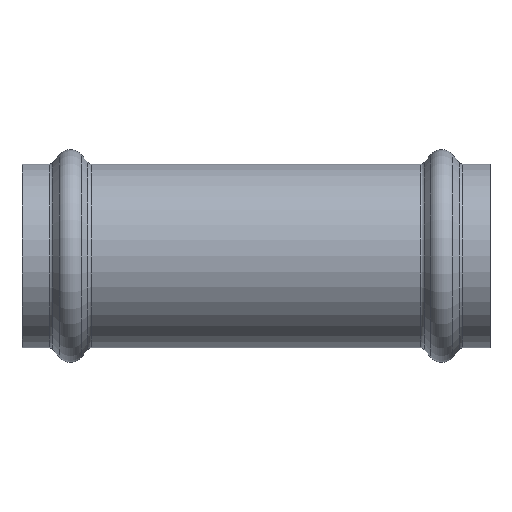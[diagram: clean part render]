
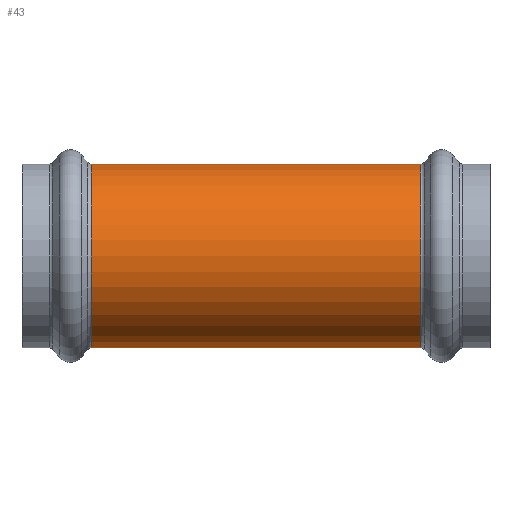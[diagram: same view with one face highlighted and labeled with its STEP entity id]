
A CAD part, front view. The second image highlights one B-rep face of the part: STEP entity #43.
In plain terms, the highlighted cylindrical face has radius 19.05 mm (diameter 38.1 mm), a partial arc.
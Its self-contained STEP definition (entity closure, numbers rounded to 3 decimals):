
#43 = ADVANCED_FACE ( 'NONE', ( #1104 ), #3034, .T. ) ;
#663 = DIRECTION ( 'NONE',  ( -1., 0., 0. ) ) ;
#766 = ORIENTED_EDGE ( 'NONE', *, *, #1442, .F. ) ;
#822 = DIRECTION ( 'NONE',  ( 0., 0., 1. ) ) ;
#883 = CARTESIAN_POINT ( 'NONE',  ( 34.129, 0., 0. ) ) ;
#975 = VERTEX_POINT ( 'NONE', #1764 ) ;
#995 = ORIENTED_EDGE ( 'NONE', *, *, #2683, .T. ) ;
#1104 = FACE_OUTER_BOUND ( 'NONE', #3126, .T. ) ;
#1259 = DIRECTION ( 'NONE',  ( 0., 0., 1. ) ) ;
#1266 = CARTESIAN_POINT ( 'NONE',  ( -34.129, 0., 0. ) ) ;
#1442 = EDGE_CURVE ( 'NONE', #1642, #3417, #2380, .T. ) ;
#1642 = VERTEX_POINT ( 'NONE', #4010 ) ;
#1733 = DIRECTION ( 'NONE',  ( 0., 0., -1. ) ) ;
#1764 = CARTESIAN_POINT ( 'NONE',  ( 34.129, 0., 19.05 ) ) ;
#1815 = DIRECTION ( 'NONE',  ( 1., 0., 0. ) ) ;
#1911 = CIRCLE ( 'NONE', #2906, 19.05 ) ;
#2083 = CARTESIAN_POINT ( 'NONE',  ( -58.611, 0., 0. ) ) ;
#2180 = DIRECTION ( 'NONE',  ( -1., 0., 0. ) ) ;
#2380 = LINE ( 'NONE', #4333, #4197 ) ;
#2478 = LINE ( 'NONE', #3690, #4400 ) ;
#2683 = EDGE_CURVE ( 'NONE', #4326, #3417, #4032, .T. ) ;
#2906 = AXIS2_PLACEMENT_3D ( 'NONE', #883, #3545, #1259 ) ;
#3034 = CYLINDRICAL_SURFACE ( 'NONE', #3646, 19.05 ) ;
#3117 = CARTESIAN_POINT ( 'NONE',  ( -34.129, 0., -19.05 ) ) ;
#3126 = EDGE_LOOP ( 'NONE', ( #766, #4489, #4594, #995 ) ) ;
#3299 = CARTESIAN_POINT ( 'NONE',  ( -34.129, 0., 19.05 ) ) ;
#3417 = VERTEX_POINT ( 'NONE', #3117 ) ;
#3545 = DIRECTION ( 'NONE',  ( -1., 0., 0. ) ) ;
#3646 = AXIS2_PLACEMENT_3D ( 'NONE', #2083, #2180, #822 ) ;
#3690 = CARTESIAN_POINT ( 'NONE',  ( -58.611, 0., 19.05 ) ) ;
#4010 = CARTESIAN_POINT ( 'NONE',  ( 34.129, 0., -19.05 ) ) ;
#4032 = CIRCLE ( 'NONE', #4530, 19.05 ) ;
#4197 = VECTOR ( 'NONE', #4550, 1000. ) ;
#4326 = VERTEX_POINT ( 'NONE', #3299 ) ;
#4333 = CARTESIAN_POINT ( 'NONE',  ( -58.611, 0., -19.05 ) ) ;
#4350 = EDGE_CURVE ( 'NONE', #975, #4326, #2478, .T. ) ;
#4400 = VECTOR ( 'NONE', #663, 1000. ) ;
#4489 = ORIENTED_EDGE ( 'NONE', *, *, #4858, .T. ) ;
#4530 = AXIS2_PLACEMENT_3D ( 'NONE', #1266, #1815, #1733 ) ;
#4550 = DIRECTION ( 'NONE',  ( -1., 0., 0. ) ) ;
#4594 = ORIENTED_EDGE ( 'NONE', *, *, #4350, .T. ) ;
#4858 = EDGE_CURVE ( 'NONE', #1642, #975, #1911, .T. ) ;
